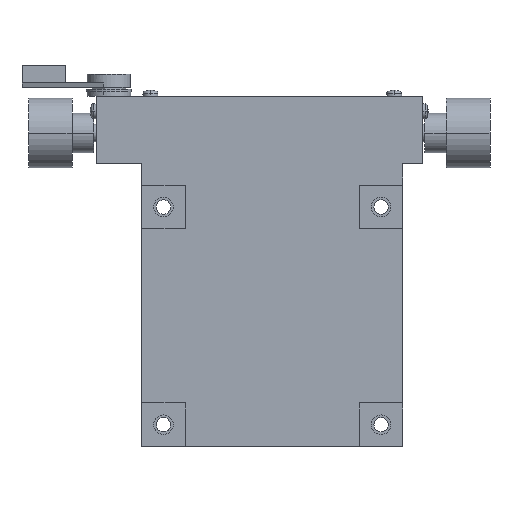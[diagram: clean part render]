
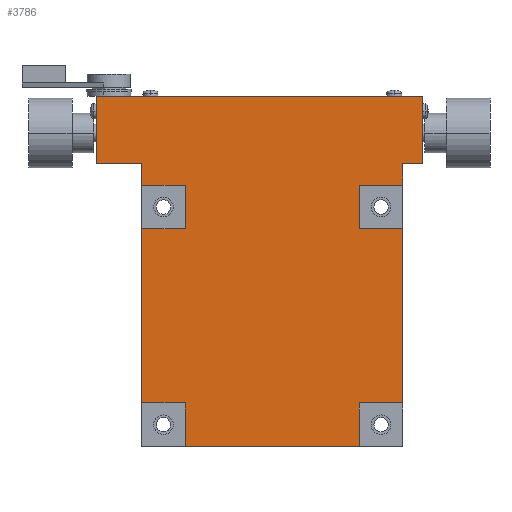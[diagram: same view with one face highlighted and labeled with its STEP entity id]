
A CAD part, front view. The second image highlights one B-rep face of the part: STEP entity #3786.
In plain terms, the highlighted planar face has unit normal (0, -1, 0).
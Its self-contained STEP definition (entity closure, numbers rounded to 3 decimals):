
#16 = CARTESIAN_POINT ( 'NONE',  ( 30., 0.5, -30. ) ) ;
#17 = DIRECTION ( 'NONE',  ( 0., 0., -1. ) ) ;
#18 = VECTOR ( 'NONE', #17, 1000. ) ;
#19 = CARTESIAN_POINT ( 'NONE',  ( 30., 0.5, -40. ) ) ;
#20 = LINE ( 'NONE', #19, #18 ) ;
#43 = DIRECTION ( 'NONE',  ( 0., 0., -1. ) ) ;
#44 = VECTOR ( 'NONE', #43, 1000. ) ;
#45 = CARTESIAN_POINT ( 'NONE',  ( 30., 0.5, -40. ) ) ;
#46 = LINE ( 'NONE', #45, #44 ) ;
#57 = DIRECTION ( 'NONE',  ( -1., 0., 0. ) ) ;
#58 = VECTOR ( 'NONE', #57, 1000. ) ;
#59 = CARTESIAN_POINT ( 'NONE',  ( -30., 0.5, -40. ) ) ;
#60 = LINE ( 'NONE', #59, #58 ) ;
#65 = CARTESIAN_POINT ( 'NONE',  ( -20., 0.5, -40. ) ) ;
#66 = CARTESIAN_POINT ( 'NONE',  ( 20., 0.5, 10. ) ) ;
#76 = DIRECTION ( 'NONE',  ( 1., 0., 0. ) ) ;
#77 = VECTOR ( 'NONE', #76, 1000. ) ;
#78 = CARTESIAN_POINT ( 'NONE',  ( -30., 0.5, -30. ) ) ;
#79 = LINE ( 'NONE', #78, #77 ) ;
#90 = CARTESIAN_POINT ( 'NONE',  ( 20., 0.5, -30. ) ) ;
#91 = DIRECTION ( 'NONE',  ( 1., 0., 0. ) ) ;
#92 = VECTOR ( 'NONE', #91, 1000. ) ;
#93 = CARTESIAN_POINT ( 'NONE',  ( 30., 0.5, -30. ) ) ;
#94 = LINE ( 'NONE', #93, #92 ) ;
#116 = DIRECTION ( 'NONE',  ( 0., 0., 1. ) ) ;
#117 = VECTOR ( 'NONE', #116, 1000. ) ;
#118 = CARTESIAN_POINT ( 'NONE',  ( 20., 0.5, 20. ) ) ;
#119 = LINE ( 'NONE', #118, #117 ) ;
#230 = DIRECTION ( 'NONE',  ( 0., 0., -1. ) ) ;
#231 = VECTOR ( 'NONE', #230, 1000. ) ;
#232 = CARTESIAN_POINT ( 'NONE',  ( 34.5, 0.5, 40.5 ) ) ;
#233 = LINE ( 'NONE', #232, #231 ) ;
#234 = CARTESIAN_POINT ( 'NONE',  ( 34.5, 0.5, 40.5 ) ) ;
#238 = CARTESIAN_POINT ( 'NONE',  ( 30., 0.5, 25. ) ) ;
#266 = DIRECTION ( 'NONE',  ( 1., 0., 0. ) ) ;
#267 = DIRECTION ( 'NONE',  ( 0., 1., 0. ) ) ;
#268 = CARTESIAN_POINT ( 'NONE',  ( -40.5, 0.5, 40.5 ) ) ;
#269 = AXIS2_PLACEMENT_3D ( 'NONE', #268, #267, #266 ) ;
#272 = PLANE ( 'NONE',  #269 ) ;
#273 = FACE_OUTER_BOUND ( 'NONE', #3787, .T. ) ;
#288 = DIRECTION ( 'NONE',  ( 1., 0., 0. ) ) ;
#289 = VECTOR ( 'NONE', #288, 1000. ) ;
#290 = CARTESIAN_POINT ( 'NONE',  ( -40.5, 0.5, 40.5 ) ) ;
#291 = LINE ( 'NONE', #290, #289 ) ;
#292 = CARTESIAN_POINT ( 'NONE',  ( -40.5, 0.5, 40.5 ) ) ;
#320 = DIRECTION ( 'NONE',  ( -1., 0., 0. ) ) ;
#321 = VECTOR ( 'NONE', #320, 1000. ) ;
#322 = CARTESIAN_POINT ( 'NONE',  ( 24.98, 0.5, 25. ) ) ;
#323 = LINE ( 'NONE', #322, #321 ) ;
#324 = DIRECTION ( 'NONE',  ( 0., 0., 1. ) ) ;
#325 = VECTOR ( 'NONE', #324, 1000. ) ;
#326 = CARTESIAN_POINT ( 'NONE',  ( -40.5, 0.5, 40.5 ) ) ;
#327 = LINE ( 'NONE', #326, #325 ) ;
#349 = DIRECTION ( 'NONE',  ( -1., 0., 0. ) ) ;
#350 = VECTOR ( 'NONE', #349, 1000. ) ;
#351 = CARTESIAN_POINT ( 'NONE',  ( 30., 0.5, 10. ) ) ;
#352 = LINE ( 'NONE', #351, #350 ) ;
#353 = CARTESIAN_POINT ( 'NONE',  ( 20., 0.5, -40. ) ) ;
#354 = DIRECTION ( 'NONE',  ( 0., 0., 1. ) ) ;
#355 = VECTOR ( 'NONE', #354, 1000. ) ;
#356 = CARTESIAN_POINT ( 'NONE',  ( 20., 0.5, -40. ) ) ;
#357 = LINE ( 'NONE', #356, #355 ) ;
#426 = CARTESIAN_POINT ( 'NONE',  ( -20., 0.5, -30. ) ) ;
#427 = DIRECTION ( 'NONE',  ( 0., 0., -1. ) ) ;
#428 = VECTOR ( 'NONE', #427, 1000. ) ;
#429 = CARTESIAN_POINT ( 'NONE',  ( -20., 0.5, -40. ) ) ;
#430 = LINE ( 'NONE', #429, #428 ) ;
#435 = CARTESIAN_POINT ( 'NONE',  ( 34.5, 0.5, 25. ) ) ;
#549 = CARTESIAN_POINT ( 'NONE',  ( -20., 0.5, 10. ) ) ;
#550 = DIRECTION ( 'NONE',  ( -1., 0., 0. ) ) ;
#551 = VECTOR ( 'NONE', #550, 1000. ) ;
#552 = CARTESIAN_POINT ( 'NONE',  ( -30., 0.5, 10. ) ) ;
#553 = LINE ( 'NONE', #552, #551 ) ;
#554 = CARTESIAN_POINT ( 'NONE',  ( -30., 0.5, 10. ) ) ;
#581 = DIRECTION ( 'NONE',  ( 0., 0., -1. ) ) ;
#582 = VECTOR ( 'NONE', #581, 1000. ) ;
#583 = CARTESIAN_POINT ( 'NONE',  ( -20., 0.5, 20. ) ) ;
#584 = LINE ( 'NONE', #583, #582 ) ;
#590 = CARTESIAN_POINT ( 'NONE',  ( -40.5, 0.5, 25. ) ) ;
#591 = CARTESIAN_POINT ( 'NONE',  ( 20., 0.5, 20. ) ) ;
#592 = DIRECTION ( 'NONE',  ( 1., 0., 0. ) ) ;
#593 = VECTOR ( 'NONE', #592, 1000. ) ;
#594 = CARTESIAN_POINT ( 'NONE',  ( 30., 0.5, 20. ) ) ;
#595 = LINE ( 'NONE', #594, #593 ) ;
#667 = CARTESIAN_POINT ( 'NONE',  ( -30., 0.5, 20. ) ) ;
#668 = DIRECTION ( 'NONE',  ( 1., 0., 0. ) ) ;
#669 = VECTOR ( 'NONE', #668, 1000. ) ;
#670 = CARTESIAN_POINT ( 'NONE',  ( -30., 0.5, 20. ) ) ;
#671 = LINE ( 'NONE', #670, #669 ) ;
#682 = CARTESIAN_POINT ( 'NONE',  ( -20., 0.5, 20. ) ) ;
#683 = CARTESIAN_POINT ( 'NONE',  ( -40.5, 0.5, 25. ) ) ;
#684 = LINE ( 'NONE', #683, #714 ) ;
#713 = DIRECTION ( 'NONE',  ( 1., 0., 0. ) ) ;
#714 = VECTOR ( 'NONE', #713, 1000. ) ;
#850 = CARTESIAN_POINT ( 'NONE',  ( -30., 0.5, -30. ) ) ;
#859 = CARTESIAN_POINT ( 'NONE',  ( -30., 0.5, 25. ) ) ;
#875 = DIRECTION ( 'NONE',  ( 0., 0., 1. ) ) ;
#876 = VECTOR ( 'NONE', #875, 1000. ) ;
#877 = CARTESIAN_POINT ( 'NONE',  ( -30., 0.5, 25. ) ) ;
#878 = LINE ( 'NONE', #877, #876 ) ;
#894 = DIRECTION ( 'NONE',  ( 0., 0., 1. ) ) ;
#895 = VECTOR ( 'NONE', #894, 1000. ) ;
#896 = CARTESIAN_POINT ( 'NONE',  ( -30., 0.5, 25. ) ) ;
#897 = LINE ( 'NONE', #896, #895 ) ;
#904 = CARTESIAN_POINT ( 'NONE',  ( 30., 0.5, 20. ) ) ;
#1369 = CARTESIAN_POINT ( 'NONE',  ( 30., 0.5, 10. ) ) ;
#3438 = VERTEX_POINT ( 'NONE', #1369 ) ;
#3445 = VERTEX_POINT ( 'NONE', #66 ) ;
#3447 = EDGE_CURVE ( 'NONE', #3619, #4091, #46, .T. ) ;
#3455 = EDGE_CURVE ( 'NONE', #3628, #3456, #60, .T. ) ;
#3456 = VERTEX_POINT ( 'NONE', #65 ) ;
#3466 = EDGE_CURVE ( 'NONE', #3467, #3550, #94, .T. ) ;
#3467 = VERTEX_POINT ( 'NONE', #90 ) ;
#3477 = EDGE_CURVE ( 'NONE', #4267, #3709, #79, .T. ) ;
#3528 = EDGE_CURVE ( 'NONE', #3445, #3840, #119, .T. ) ;
#3549 = EDGE_CURVE ( 'NONE', #3438, #3550, #20, .T. ) ;
#3550 = VERTEX_POINT ( 'NONE', #16 ) ;
#3600 = VERTEX_POINT ( 'NONE', #234 ) ;
#3602 = EDGE_CURVE ( 'NONE', #3600, #3702, #233, .T. ) ;
#3619 = VERTEX_POINT ( 'NONE', #238 ) ;
#3627 = EDGE_CURVE ( 'NONE', #3628, #3467, #357, .T. ) ;
#3628 = VERTEX_POINT ( 'NONE', #353 ) ;
#3634 = EDGE_CURVE ( 'NONE', #3438, #3445, #352, .T. ) ;
#3702 = VERTEX_POINT ( 'NONE', #435 ) ;
#3708 = EDGE_CURVE ( 'NONE', #3709, #3456, #430, .T. ) ;
#3709 = VERTEX_POINT ( 'NONE', #426 ) ;
#3712 = ORIENTED_EDGE ( 'NONE', *, *, #3878, .T. ) ;
#3713 = ORIENTED_EDGE ( 'NONE', *, *, #4228, .F. ) ;
#3714 = ORIENTED_EDGE ( 'NONE', *, *, #3477, .T. ) ;
#3719 = ORIENTED_EDGE ( 'NONE', *, *, #3708, .T. ) ;
#3720 = ORIENTED_EDGE ( 'NONE', *, *, #3455, .F. ) ;
#3721 = ORIENTED_EDGE ( 'NONE', *, *, #3627, .T. ) ;
#3722 = ORIENTED_EDGE ( 'NONE', *, *, #3466, .T. ) ;
#3723 = ORIENTED_EDGE ( 'NONE', *, *, #3549, .F. ) ;
#3724 = ORIENTED_EDGE ( 'NONE', *, *, #3634, .T. ) ;
#3725 = ORIENTED_EDGE ( 'NONE', *, *, #3528, .T. ) ;
#3726 = ORIENTED_EDGE ( 'NONE', *, *, #3839, .T. ) ;
#3729 = ORIENTED_EDGE ( 'NONE', *, *, #3447, .F. ) ;
#3730 = ORIENTED_EDGE ( 'NONE', *, *, #3737, .F. ) ;
#3731 = ORIENTED_EDGE ( 'NONE', *, *, #3602, .F. ) ;
#3732 = ORIENTED_EDGE ( 'NONE', *, *, #3769, .F. ) ;
#3733 = ORIENTED_EDGE ( 'NONE', *, *, #3734, .F. ) ;
#3734 = EDGE_CURVE ( 'NONE', #3796, #3766, #327, .T. ) ;
#3737 = EDGE_CURVE ( 'NONE', #3702, #3619, #323, .T. ) ;
#3766 = VERTEX_POINT ( 'NONE', #292 ) ;
#3769 = EDGE_CURVE ( 'NONE', #3766, #3600, #291, .T. ) ;
#3786 = ADVANCED_FACE ( 'NONE', ( #273 ), #272, .F. ) ;
#3787 = EDGE_LOOP ( 'NONE', ( #3788, #3789, #3797, #3798, #3712, #3713, #3714, #3719, #3720, #3721, #3722, #3723, #3724, #3725, #3726, #3729, #3730, #3731, #3732, #3733 ) ) ;
#3788 = ORIENTED_EDGE ( 'NONE', *, *, #3795, .T. ) ;
#3789 = ORIENTED_EDGE ( 'NONE', *, *, #4151, .F. ) ;
#3795 = EDGE_CURVE ( 'NONE', #3796, #4256, #684, .T. ) ;
#3796 = VERTEX_POINT ( 'NONE', #590 ) ;
#3797 = ORIENTED_EDGE ( 'NONE', *, *, #3893, .T. ) ;
#3798 = ORIENTED_EDGE ( 'NONE', *, *, #3884, .T. ) ;
#3839 = EDGE_CURVE ( 'NONE', #3840, #4091, #595, .T. ) ;
#3840 = VERTEX_POINT ( 'NONE', #591 ) ;
#3876 = VERTEX_POINT ( 'NONE', #554 ) ;
#3878 = EDGE_CURVE ( 'NONE', #3879, #3876, #553, .T. ) ;
#3879 = VERTEX_POINT ( 'NONE', #549 ) ;
#3884 = EDGE_CURVE ( 'NONE', #3885, #3879, #584, .T. ) ;
#3885 = VERTEX_POINT ( 'NONE', #682 ) ;
#3893 = EDGE_CURVE ( 'NONE', #3894, #3885, #671, .T. ) ;
#3894 = VERTEX_POINT ( 'NONE', #667 ) ;
#4091 = VERTEX_POINT ( 'NONE', #904 ) ;
#4151 = EDGE_CURVE ( 'NONE', #3894, #4256, #897, .T. ) ;
#4228 = EDGE_CURVE ( 'NONE', #4267, #3876, #878, .T. ) ;
#4256 = VERTEX_POINT ( 'NONE', #859 ) ;
#4267 = VERTEX_POINT ( 'NONE', #850 ) ;
